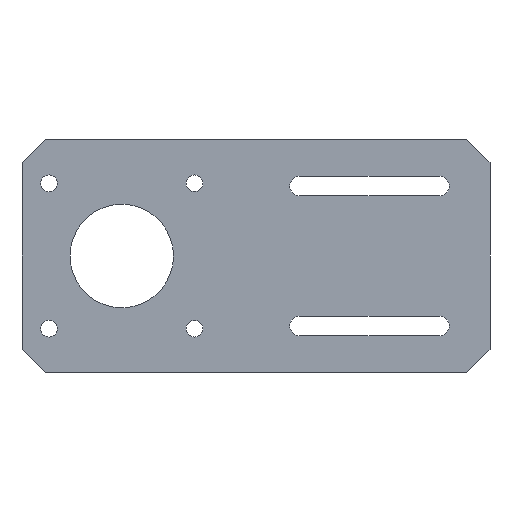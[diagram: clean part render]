
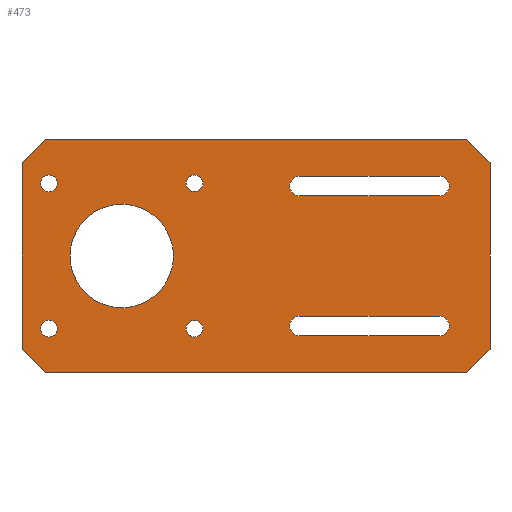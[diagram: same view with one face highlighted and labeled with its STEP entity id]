
A CAD part, front view. The second image highlights one B-rep face of the part: STEP entity #473.
In plain terms, the highlighted planar face has unit normal (0, -1, 0).
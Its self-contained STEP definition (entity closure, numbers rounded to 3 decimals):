
#22=FACE_BOUND('',#96,.T.);
#23=FACE_BOUND('',#97,.T.);
#24=FACE_BOUND('',#98,.T.);
#25=FACE_BOUND('',#99,.T.);
#26=FACE_BOUND('',#100,.T.);
#27=FACE_BOUND('',#101,.T.);
#28=FACE_BOUND('',#102,.T.);
#42=PLANE('',#537);
#65=FACE_OUTER_BOUND('',#95,.T.);
#95=EDGE_LOOP('',(#421,#422,#423,#424,#425,#426,#427,#428));
#96=EDGE_LOOP('',(#429));
#97=EDGE_LOOP('',(#430,#431,#432,#433));
#98=EDGE_LOOP('',(#434,#435,#436,#437));
#99=EDGE_LOOP('',(#438));
#100=EDGE_LOOP('',(#439));
#101=EDGE_LOOP('',(#440));
#102=EDGE_LOOP('',(#441));
#107=LINE('',#687,#152);
#111=LINE('',#697,#156);
#115=LINE('',#711,#160);
#119=LINE('',#721,#164);
#126=LINE('',#753,#171);
#130=LINE('',#760,#175);
#133=LINE('',#766,#178);
#136=LINE('',#772,#181);
#139=LINE('',#778,#184);
#142=LINE('',#784,#187);
#145=LINE('',#790,#190);
#147=LINE('',#793,#192);
#152=VECTOR('',#558,10.);
#156=VECTOR('',#570,10.);
#160=VECTOR('',#582,10.);
#164=VECTOR('',#594,10.);
#171=VECTOR('',#627,10.);
#175=VECTOR('',#633,10.);
#178=VECTOR('',#638,10.);
#181=VECTOR('',#643,10.);
#184=VECTOR('',#648,10.);
#187=VECTOR('',#653,10.);
#190=VECTOR('',#658,10.);
#192=VECTOR('',#662,10.);
#193=CIRCLE('',#498,11.1);
#196=CIRCLE('',#502,2.1);
#198=CIRCLE('',#506,2.1);
#200=CIRCLE('',#510,2.1);
#202=CIRCLE('',#514,2.1);
#203=CIRCLE('',#517,1.8);
#205=CIRCLE('',#520,1.8);
#207=CIRCLE('',#523,1.8);
#209=CIRCLE('',#526,1.8);
#211=VERTEX_POINT('',#669);
#215=VERTEX_POINT('',#678);
#216=VERTEX_POINT('',#680);
#218=VERTEX_POINT('',#686);
#220=VERTEX_POINT('',#692);
#223=VERTEX_POINT('',#702);
#224=VERTEX_POINT('',#704);
#226=VERTEX_POINT('',#710);
#228=VERTEX_POINT('',#716);
#229=VERTEX_POINT('',#723);
#231=VERTEX_POINT('',#729);
#233=VERTEX_POINT('',#735);
#235=VERTEX_POINT('',#741);
#239=VERTEX_POINT('',#750);
#240=VERTEX_POINT('',#752);
#242=VERTEX_POINT('',#758);
#244=VERTEX_POINT('',#764);
#246=VERTEX_POINT('',#770);
#248=VERTEX_POINT('',#776);
#250=VERTEX_POINT('',#782);
#252=VERTEX_POINT('',#788);
#253=EDGE_CURVE('',#211,#211,#193,.T.);
#258=EDGE_CURVE('',#216,#215,#196,.T.);
#261=EDGE_CURVE('',#218,#216,#107,.T.);
#264=EDGE_CURVE('',#220,#218,#198,.T.);
#267=EDGE_CURVE('',#215,#220,#111,.T.);
#270=EDGE_CURVE('',#224,#223,#200,.T.);
#273=EDGE_CURVE('',#226,#224,#115,.T.);
#276=EDGE_CURVE('',#228,#226,#202,.T.);
#279=EDGE_CURVE('',#223,#228,#119,.T.);
#280=EDGE_CURVE('',#229,#229,#203,.T.);
#283=EDGE_CURVE('',#231,#231,#205,.T.);
#286=EDGE_CURVE('',#233,#233,#207,.T.);
#289=EDGE_CURVE('',#235,#235,#209,.T.);
#294=EDGE_CURVE('',#240,#239,#126,.T.);
#298=EDGE_CURVE('',#239,#242,#130,.T.);
#301=EDGE_CURVE('',#242,#244,#133,.T.);
#304=EDGE_CURVE('',#244,#246,#136,.T.);
#307=EDGE_CURVE('',#246,#248,#139,.T.);
#310=EDGE_CURVE('',#248,#250,#142,.T.);
#313=EDGE_CURVE('',#250,#252,#145,.T.);
#315=EDGE_CURVE('',#252,#240,#147,.T.);
#421=ORIENTED_EDGE('',*,*,#315,.T.);
#422=ORIENTED_EDGE('',*,*,#294,.T.);
#423=ORIENTED_EDGE('',*,*,#298,.T.);
#424=ORIENTED_EDGE('',*,*,#301,.T.);
#425=ORIENTED_EDGE('',*,*,#304,.T.);
#426=ORIENTED_EDGE('',*,*,#307,.T.);
#427=ORIENTED_EDGE('',*,*,#310,.T.);
#428=ORIENTED_EDGE('',*,*,#313,.T.);
#429=ORIENTED_EDGE('',*,*,#253,.T.);
#430=ORIENTED_EDGE('',*,*,#258,.T.);
#431=ORIENTED_EDGE('',*,*,#267,.T.);
#432=ORIENTED_EDGE('',*,*,#264,.T.);
#433=ORIENTED_EDGE('',*,*,#261,.T.);
#434=ORIENTED_EDGE('',*,*,#270,.T.);
#435=ORIENTED_EDGE('',*,*,#279,.T.);
#436=ORIENTED_EDGE('',*,*,#276,.T.);
#437=ORIENTED_EDGE('',*,*,#273,.T.);
#438=ORIENTED_EDGE('',*,*,#280,.T.);
#439=ORIENTED_EDGE('',*,*,#283,.T.);
#440=ORIENTED_EDGE('',*,*,#286,.T.);
#441=ORIENTED_EDGE('',*,*,#289,.T.);
#473=ADVANCED_FACE('',(#65,#22,#23,#24,#25,#26,#27,#28),#42,.F.);
#498=AXIS2_PLACEMENT_3D('',#670,#542,#543);
#502=AXIS2_PLACEMENT_3D('',#681,#552,#553);
#506=AXIS2_PLACEMENT_3D('',#693,#564,#565);
#510=AXIS2_PLACEMENT_3D('',#705,#576,#577);
#514=AXIS2_PLACEMENT_3D('',#717,#588,#589);
#517=AXIS2_PLACEMENT_3D('',#724,#597,#598);
#520=AXIS2_PLACEMENT_3D('',#730,#604,#605);
#523=AXIS2_PLACEMENT_3D('',#736,#611,#612);
#526=AXIS2_PLACEMENT_3D('',#742,#618,#619);
#537=AXIS2_PLACEMENT_3D('',#795,#665,#666);
#542=DIRECTION('center_axis',(0.,1.,0.));
#543=DIRECTION('ref_axis',(1.,0.,0.));
#552=DIRECTION('center_axis',(0.,1.,0.));
#553=DIRECTION('ref_axis',(0.,0.,1.));
#558=DIRECTION('',(1.,0.,0.));
#564=DIRECTION('center_axis',(0.,1.,0.));
#565=DIRECTION('ref_axis',(0.,0.,-1.));
#570=DIRECTION('',(-1.,0.,0.));
#576=DIRECTION('center_axis',(0.,1.,0.));
#577=DIRECTION('ref_axis',(0.,0.,1.));
#582=DIRECTION('',(-1.,0.,0.));
#588=DIRECTION('center_axis',(0.,1.,0.));
#589=DIRECTION('ref_axis',(0.,0.,-1.));
#594=DIRECTION('',(1.,0.,0.));
#597=DIRECTION('center_axis',(0.,1.,0.));
#598=DIRECTION('ref_axis',(1.,0.,0.));
#604=DIRECTION('center_axis',(0.,1.,0.));
#605=DIRECTION('ref_axis',(1.,0.,0.));
#611=DIRECTION('center_axis',(0.,1.,0.));
#612=DIRECTION('ref_axis',(1.,0.,0.));
#618=DIRECTION('center_axis',(0.,1.,0.));
#619=DIRECTION('ref_axis',(1.,0.,0.));
#627=DIRECTION('',(0.,0.,-1.));
#633=DIRECTION('',(0.707,0.,-0.707));
#638=DIRECTION('',(1.,0.,0.));
#643=DIRECTION('',(0.707,0.,0.707));
#648=DIRECTION('',(0.,0.,1.));
#653=DIRECTION('',(-0.707,0.,0.707));
#658=DIRECTION('',(-1.,0.,0.));
#662=DIRECTION('',(-0.707,0.,-0.707));
#665=DIRECTION('center_axis',(0.,1.,0.));
#666=DIRECTION('ref_axis',(0.,0.,1.));
#669=CARTESIAN_POINT('',(-39.9,0.,0.));
#670=CARTESIAN_POINT('Origin',(-28.8,0.,0.));
#678=CARTESIAN_POINT('',(39.35,0.,-17.1));
#680=CARTESIAN_POINT('',(39.35,0.,-12.9));
#681=CARTESIAN_POINT('Origin',(39.35,0.,-15.));
#686=CARTESIAN_POINT('',(9.35,0.,-12.9));
#687=CARTESIAN_POINT('',(19.675,0.,-12.9));
#692=CARTESIAN_POINT('',(9.35,0.,-17.1));
#693=CARTESIAN_POINT('Origin',(9.35,0.,-15.));
#697=CARTESIAN_POINT('',(4.675,0.,-17.1));
#702=CARTESIAN_POINT('',(9.35,0.,17.1));
#704=CARTESIAN_POINT('',(9.35,0.,12.9));
#705=CARTESIAN_POINT('Origin',(9.35,0.,15.));
#710=CARTESIAN_POINT('',(39.35,0.,12.9));
#711=CARTESIAN_POINT('',(4.675,0.,12.9));
#716=CARTESIAN_POINT('',(39.35,0.,17.1));
#717=CARTESIAN_POINT('Origin',(39.35,0.,15.));
#721=CARTESIAN_POINT('',(19.675,0.,17.1));
#723=CARTESIAN_POINT('',(-15.,0.,15.6));
#724=CARTESIAN_POINT('Origin',(-13.2,0.,15.6));
#729=CARTESIAN_POINT('',(-15.,0.,-15.6));
#730=CARTESIAN_POINT('Origin',(-13.2,0.,-15.6));
#735=CARTESIAN_POINT('',(-46.2,0.,-15.6));
#736=CARTESIAN_POINT('Origin',(-44.4,0.,-15.6));
#741=CARTESIAN_POINT('',(-46.2,0.,15.6));
#742=CARTESIAN_POINT('Origin',(-44.4,0.,15.6));
#750=CARTESIAN_POINT('',(-50.2,0.,-20.));
#752=CARTESIAN_POINT('',(-50.2,0.,20.));
#753=CARTESIAN_POINT('',(-50.2,0.,20.));
#758=CARTESIAN_POINT('',(-45.2,0.,-25.));
#760=CARTESIAN_POINT('',(-50.2,0.,-20.));
#764=CARTESIAN_POINT('',(45.2,0.,-25.));
#766=CARTESIAN_POINT('',(-45.2,0.,-25.));
#770=CARTESIAN_POINT('',(50.2,0.,-20.));
#772=CARTESIAN_POINT('',(45.2,0.,-25.));
#776=CARTESIAN_POINT('',(50.2,0.,20.));
#778=CARTESIAN_POINT('',(50.2,0.,-20.));
#782=CARTESIAN_POINT('',(45.2,0.,25.));
#784=CARTESIAN_POINT('',(50.2,0.,20.));
#788=CARTESIAN_POINT('',(-45.2,0.,25.));
#790=CARTESIAN_POINT('',(45.2,0.,25.));
#793=CARTESIAN_POINT('',(-45.2,0.,25.));
#795=CARTESIAN_POINT('Origin',(0.,0.,0.));
